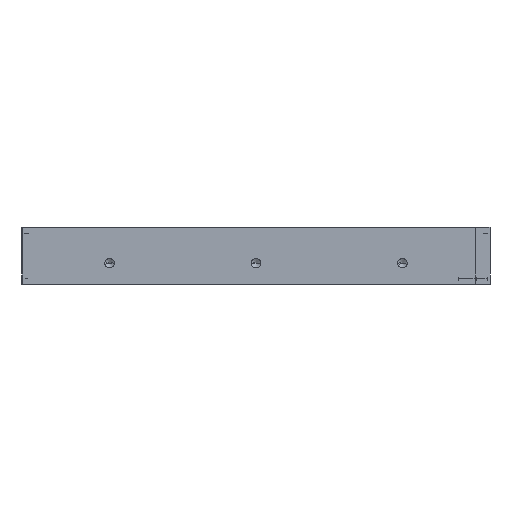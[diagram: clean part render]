
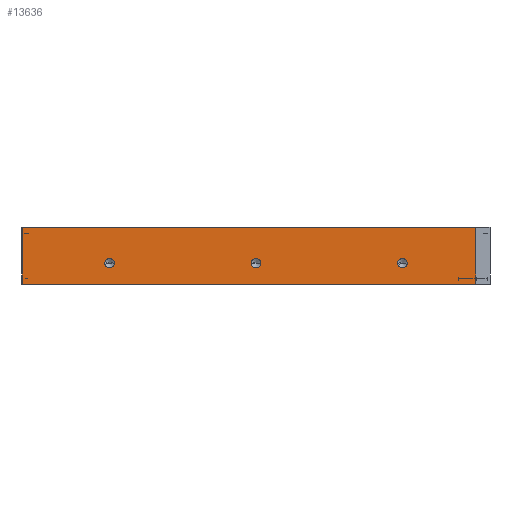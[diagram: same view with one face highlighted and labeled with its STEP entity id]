
A CAD part, front view. The second image highlights one B-rep face of the part: STEP entity #13636.
In plain terms, the highlighted planar face has unit normal (0, -1, 0) as drawn and (-1, 0, 0) by its records, which use the part's own axes.
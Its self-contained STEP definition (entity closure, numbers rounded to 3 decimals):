
#66 = DIRECTION ( 'NONE',  ( 0., 0., 1. ) ) ;
#512 = AXIS2_PLACEMENT_3D ( 'NONE', #2773, #29813, #26332 ) ;
#655 = ORIENTED_EDGE ( 'NONE', *, *, #22510, .F. ) ;
#1009 = CARTESIAN_POINT ( 'NONE',  ( 0., 0., -204. ) ) ;
#1122 = CIRCLE ( 'NONE', #27741, 1.65 ) ;
#1245 = CARTESIAN_POINT ( 'NONE',  ( 0., 12.5, -78.15 ) ) ;
#1484 = LINE ( 'NONE', #31967, #16043 ) ;
#1982 = VERTEX_POINT ( 'NONE', #20668 ) ;
#2505 = EDGE_CURVE ( 'NONE', #7919, #30769, #7673, .T. ) ;
#2608 = DIRECTION ( 'NONE',  ( 0., 0., 1. ) ) ;
#2773 = CARTESIAN_POINT ( 'NONE',  ( 0., 12.5, -25.5 ) ) ;
#2939 = CIRCLE ( 'NONE', #3747, 1.65 ) ;
#3018 = DIRECTION ( 'NONE',  ( 0., 0., 1. ) ) ;
#3030 = LINE ( 'NONE', #33519, #29325 ) ;
#3392 = CARTESIAN_POINT ( 'NONE',  ( 0., 0., 5. ) ) ;
#3529 = DIRECTION ( 'NONE',  ( -1., 0., 0. ) ) ;
#3614 = PLANE ( 'NONE',  #26488 ) ;
#3747 = AXIS2_PLACEMENT_3D ( 'NONE', #20067, #16586, #13090 ) ;
#4430 = VERTEX_POINT ( 'NONE', #30694 ) ;
#4475 = LINE ( 'NONE', #1009, #5410 ) ;
#5289 = VERTEX_POINT ( 'NONE', #12159 ) ;
#5306 = VERTEX_POINT ( 'NONE', #29572 ) ;
#5410 = VECTOR ( 'NONE', #31487, 1000. ) ;
#5447 = EDGE_CURVE ( 'NONE', #23874, #7755, #20169, .T. ) ;
#5991 = EDGE_CURVE ( 'NONE', #5306, #15354, #2939, .T. ) ;
#6106 = CARTESIAN_POINT ( 'NONE',  ( 0., 0., -153. ) ) ;
#6116 = DIRECTION ( 'NONE',  ( -1., 0., 0. ) ) ;
#6516 = DIRECTION ( 'NONE',  ( -1., 0., 0. ) ) ;
#7044 = CARTESIAN_POINT ( 'NONE',  ( 0., 12.5, -76.5 ) ) ;
#7328 = ORIENTED_EDGE ( 'NONE', *, *, #11770, .T. ) ;
#7673 = CIRCLE ( 'NONE', #32806, 1.65 ) ;
#7755 = VERTEX_POINT ( 'NONE', #30621 ) ;
#7841 = EDGE_CURVE ( 'NONE', #15354, #5306, #16348, .T. ) ;
#7919 = VERTEX_POINT ( 'NONE', #23889 ) ;
#9089 = AXIS2_PLACEMENT_3D ( 'NONE', #7044, #3529, #66 ) ;
#9274 = VERTEX_POINT ( 'NONE', #1245 ) ;
#10304 = VECTOR ( 'NONE', #13187, 1000. ) ;
#10662 = ORIENTED_EDGE ( 'NONE', *, *, #2505, .F. ) ;
#11770 = EDGE_CURVE ( 'NONE', #23874, #14219, #4475, .T. ) ;
#12159 = CARTESIAN_POINT ( 'NONE',  ( 0., 19.8, 0. ) ) ;
#13090 = DIRECTION ( 'NONE',  ( 0., 0., 1. ) ) ;
#13187 = DIRECTION ( 'NONE',  ( 0., 1., 0. ) ) ;
#13636 = ADVANCED_FACE ( 'NONE', ( #22109, #18605, #27352, #29112 ), #3614, .T. ) ;
#14025 = ORIENTED_EDGE ( 'NONE', *, *, #15585, .T. ) ;
#14219 = VERTEX_POINT ( 'NONE', #3392 ) ;
#15354 = VERTEX_POINT ( 'NONE', #29577 ) ;
#15585 = EDGE_CURVE ( 'NONE', #5289, #7755, #26490, .T. ) ;
#15932 = EDGE_CURVE ( 'NONE', #14219, #4430, #1484, .T. ) ;
#16043 = VECTOR ( 'NONE', #28504, 1000. ) ;
#16348 = CIRCLE ( 'NONE', #512, 1.65 ) ;
#16571 = CARTESIAN_POINT ( 'NONE',  ( 0., 12.5, -127.5 ) ) ;
#16586 = DIRECTION ( 'NONE',  ( -1., 0., 0. ) ) ;
#16684 = CARTESIAN_POINT ( 'NONE',  ( 0., 0., -153. ) ) ;
#17025 = EDGE_CURVE ( 'NONE', #30769, #7919, #31660, .T. ) ;
#17650 = DIRECTION ( 'NONE',  ( 0., 0., 1. ) ) ;
#18605 = FACE_OUTER_BOUND ( 'NONE', #23231, .T. ) ;
#19543 = DIRECTION ( 'NONE',  ( 0., 0., -1. ) ) ;
#20067 = CARTESIAN_POINT ( 'NONE',  ( 0., 12.5, -25.5 ) ) ;
#20169 = LINE ( 'NONE', #16684, #10304 ) ;
#20241 = DIRECTION ( 'NONE',  ( 0., 0., 1. ) ) ;
#20453 = CARTESIAN_POINT ( 'NONE',  ( 0., 12.5, -127.5 ) ) ;
#20668 = CARTESIAN_POINT ( 'NONE',  ( 0., 12.5, -74.85 ) ) ;
#20770 = EDGE_LOOP ( 'NONE', ( #24635, #10662 ) ) ;
#21116 = DIRECTION ( 'NONE',  ( -1., 0., 0. ) ) ;
#22109 = FACE_BOUND ( 'NONE', #31141, .T. ) ;
#22510 = EDGE_CURVE ( 'NONE', #9274, #1982, #1122, .T. ) ;
#23038 = CARTESIAN_POINT ( 'NONE',  ( 0., 19.8, -204. ) ) ;
#23107 = ORIENTED_EDGE ( 'NONE', *, *, #28101, .F. ) ;
#23231 = EDGE_LOOP ( 'NONE', ( #27477, #7328, #31949, #32922, #14025 ) ) ;
#23359 = ORIENTED_EDGE ( 'NONE', *, *, #5991, .F. ) ;
#23724 = DIRECTION ( 'NONE',  ( -1., 0., 0. ) ) ;
#23874 = VERTEX_POINT ( 'NONE', #6106 ) ;
#23889 = CARTESIAN_POINT ( 'NONE',  ( 0., 12.5, -129.15 ) ) ;
#24181 = EDGE_LOOP ( 'NONE', ( #30467, #23359 ) ) ;
#24592 = CARTESIAN_POINT ( 'NONE',  ( 0., 12.5, -76.5 ) ) ;
#24635 = ORIENTED_EDGE ( 'NONE', *, *, #17025, .F. ) ;
#25063 = EDGE_CURVE ( 'NONE', #4430, #5289, #3030, .T. ) ;
#25470 = AXIS2_PLACEMENT_3D ( 'NONE', #16571, #6116, #2608 ) ;
#26332 = DIRECTION ( 'NONE',  ( 0., 0., 1. ) ) ;
#26488 = AXIS2_PLACEMENT_3D ( 'NONE', #27183, #23724, #20241 ) ;
#26490 = LINE ( 'NONE', #23038, #28472 ) ;
#27183 = CARTESIAN_POINT ( 'NONE',  ( 0., 0., -204. ) ) ;
#27352 = FACE_BOUND ( 'NONE', #24181, .T. ) ;
#27477 = ORIENTED_EDGE ( 'NONE', *, *, #5447, .F. ) ;
#27741 = AXIS2_PLACEMENT_3D ( 'NONE', #24592, #21116, #17650 ) ;
#28101 = EDGE_CURVE ( 'NONE', #1982, #9274, #33194, .T. ) ;
#28472 = VECTOR ( 'NONE', #19543, 1000. ) ;
#28504 = DIRECTION ( 'NONE',  ( 0., 1., 0. ) ) ;
#29112 = FACE_BOUND ( 'NONE', #20770, .T. ) ;
#29132 = CARTESIAN_POINT ( 'NONE',  ( 0., 12.5, -125.85 ) ) ;
#29325 = VECTOR ( 'NONE', #30058, 1000. ) ;
#29572 = CARTESIAN_POINT ( 'NONE',  ( 0., 12.5, -27.15 ) ) ;
#29577 = CARTESIAN_POINT ( 'NONE',  ( 0., 12.5, -23.85 ) ) ;
#29813 = DIRECTION ( 'NONE',  ( -1., 0., 0. ) ) ;
#30058 = DIRECTION ( 'NONE',  ( 0., 0., -1. ) ) ;
#30467 = ORIENTED_EDGE ( 'NONE', *, *, #7841, .F. ) ;
#30621 = CARTESIAN_POINT ( 'NONE',  ( 0., 19.8, -153. ) ) ;
#30694 = CARTESIAN_POINT ( 'NONE',  ( 0., 19.8, 5. ) ) ;
#30769 = VERTEX_POINT ( 'NONE', #29132 ) ;
#31141 = EDGE_LOOP ( 'NONE', ( #23107, #655 ) ) ;
#31487 = DIRECTION ( 'NONE',  ( 0., 0., 1. ) ) ;
#31660 = CIRCLE ( 'NONE', #25470, 1.65 ) ;
#31949 = ORIENTED_EDGE ( 'NONE', *, *, #15932, .T. ) ;
#31967 = CARTESIAN_POINT ( 'NONE',  ( 0., -7.071, 5. ) ) ;
#32806 = AXIS2_PLACEMENT_3D ( 'NONE', #20453, #6516, #3018 ) ;
#32922 = ORIENTED_EDGE ( 'NONE', *, *, #25063, .T. ) ;
#33194 = CIRCLE ( 'NONE', #9089, 1.65 ) ;
#33519 = CARTESIAN_POINT ( 'NONE',  ( 0., 19.8, -204. ) ) ;
